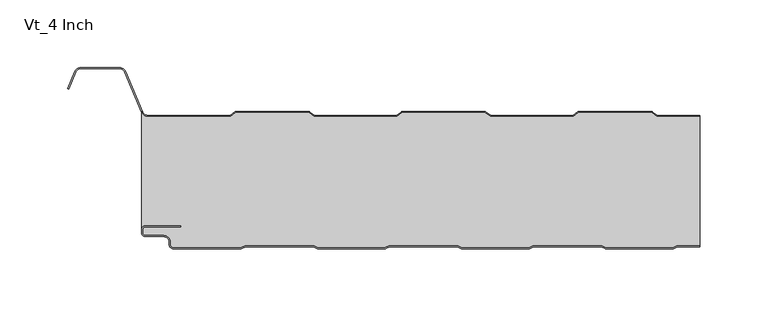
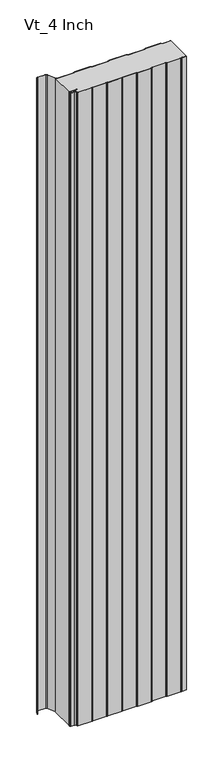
"""IFC4 building model written with IfcOpenShell, lengths in millimetres: plate geometry, AWIP_R18_CP_HR3_Vt_Roof Panel : Vt_4 Inch."""

import ifcopenshell
import ifcopenshell.guid

model = None  # the IFC model being written
_history = None  # IfcOwnerHistory: only IFC2X3 demands one
_inside = {}  # id of a spatial element -> (the spatial element, [elements in it])
_under = {}  # id of a project, library or spatial element -> (it, [spatial elements below it])
_declared = {}  # id of a project -> (the project, [libraries it declares])
_typed = {}  # id of a type object -> (the type object, [elements of that type])
_made_of = {}  # id of a material, layer set ... -> (it, [elements and type objects made of it])


def new_model(schema):
    """Start an empty IFC model of exactly this schema.

    Asked for "IFC4X3", IfcOpenShell would pick the latest addendum, in which some entities
    have other attributes; the version numbers below select the first issue.
    IFC2X3 requires an IfcOwnerHistory on every rooted entity: one is made here for all.
    """
    global model, _history
    if schema == "IFC4X3":
        model = ifcopenshell.file(schema_version=(4, 3, 0, 0))
    else:
        model = ifcopenshell.file(schema=schema)
    _inside.clear()
    _under.clear()
    _declared.clear()
    _typed.clear()
    _made_of.clear()
    _history = None
    if model.schema == "IFC2X3":
        org = make("IfcOrganization", Name="unknown")
        user = make(
            "IfcPersonAndOrganization",
            ThePerson=make("IfcPerson", FamilyName="unknown"),
            TheOrganization=org,
        )
        app = make(
            "IfcApplication",
            ApplicationDeveloper=org,
            Version="unknown",
            ApplicationFullName="unknown",
            ApplicationIdentifier="unknown",
        )
        _history = make(
            "IfcOwnerHistory",
            OwningUser=user,
            OwningApplication=app,
            ChangeAction="ADDED",
            CreationDate=0,
        )
    return model


def make(cls, **values):
    """One entity of the class cls with the attributes given. An attribute that is None is left unset."""
    return model.create_entity(
        cls, **{name: value for name, value in values.items() if value is not None}
    )


def rooted(cls, **values):
    """An entity with a GlobalId (a new one), such as an element, a storey or a relation."""
    return make(cls, GlobalId=ifcopenshell.guid.new(), OwnerHistory=_history, **values)


def si_unit(unit_type, name, prefix=None):
    """IfcSIUnit, for example si_unit("LENGTHUNIT", "METRE", prefix="MILLI")."""
    return make("IfcSIUnit", UnitType=unit_type, Prefix=prefix, Name=name)


def assignment(units):
    """IfcUnitAssignment: the units of a project."""
    return None if units is None else make("IfcUnitAssignment", Units=units)


def point(xyz):
    """IfcCartesianPoint."""
    return None if xyz is None else make("IfcCartesianPoint", Coordinates=xyz)


def direction(xyz):
    """IfcDirection."""
    return None if xyz is None else make("IfcDirection", DirectionRatios=xyz)


def frame(location, z_axis=None, x_axis=None):
    """IfcAxis2Placement3D, a coordinate frame: its origin and axes. An axis left out is left unset."""
    return make(
        "IfcAxis2Placement3D",
        Location=point(location),
        Axis=direction(z_axis),
        RefDirection=direction(x_axis),
    )


def frame_2d(location, x_axis=None):
    """IfcAxis2Placement2D, a coordinate frame in the plane: its origin and x axis."""
    return make(
        "IfcAxis2Placement2D", Location=point(location), RefDirection=direction(x_axis)
    )


def origin():
    """The frame at (0, 0, 0) with its axes left unset."""
    return frame((0.0, 0.0, 0.0))


def origin_with_axes():
    """The frame at (0, 0, 0) with the z axis (0, 0, 1) and the x axis (1, 0, 0) written out."""
    return frame((0.0, 0.0, 0.0), z_axis=(0.0, 0.0, 1.0), x_axis=(1.0, 0.0, 0.0))


def place(relative_to, where):
    """IfcLocalPlacement: puts the frame where relative to a parent placement (None: the world)."""
    return make(
        "IfcLocalPlacement", PlacementRelTo=relative_to, RelativePlacement=where
    )


def context(
    kind, dimensions, precision=None, world=None, true_north=None, identifier=None
):
    """IfcGeometricRepresentationContext, for example the 3D "Model" context."""
    return make(
        "IfcGeometricRepresentationContext",
        ContextIdentifier=identifier,
        ContextType=kind,
        CoordinateSpaceDimension=dimensions,
        Precision=precision,
        WorldCoordinateSystem=world,
        TrueNorth=true_north,
    )


def project(units=None, contexts=None):
    """IfcProject with its units and contexts."""
    return rooted(
        "IfcProject",
        Name="project",
        RepresentationContexts=contexts,
        UnitsInContext=assignment(units),
    )


def spatial(cls, under=None, at=None, **own):
    """A site, building, storey or space (cls), placed at a placement, below another one or the project."""
    s = rooted(cls, ObjectPlacement=at, **own)
    if under is not None:
        _under.setdefault(under.id(), (under, []))[1].append(s)
    return s


def polyline(points):
    """IfcPolyline through the points."""
    return make("IfcPolyline", Points=[point(p) for p in points])


def circle_curve(where, radius):
    """IfcCircle in the frame where."""
    return make("IfcCircle", Position=where, Radius=radius)


def trimmed(basis, trim1, trim2, sense, master):
    """IfcTrimmedCurve: the piece of a basis curve between two trims."""
    return make(
        "IfcTrimmedCurve",
        BasisCurve=basis,
        Trim1=trim1,
        Trim2=trim2,
        SenseAgreement=sense,
        MasterRepresentation=master,
    )


def segment(curve, same_sense, transition):
    """IfcCompositeCurveSegment."""
    return make(
        "IfcCompositeCurveSegment",
        Transition=transition,
        SameSense=same_sense,
        ParentCurve=curve,
    )


def composite_curve(segments, self_intersect=None):
    """IfcCompositeCurve: segments joined end to end."""
    return make("IfcCompositeCurve", Segments=segments, SelfIntersect=self_intersect)


def outline(outer, holes=None, kind="AREA"):
    """IfcArbitraryClosedProfileDef: a profile drawn as a closed curve; with holes, ...WithVoids."""
    if holes is None:
        return make("IfcArbitraryClosedProfileDef", ProfileType=kind, OuterCurve=outer)
    return make(
        "IfcArbitraryProfileDefWithVoids",
        ProfileType=kind,
        OuterCurve=outer,
        InnerCurves=holes,
    )


def extrude(swept, where, along, depth):
    """IfcExtrudedAreaSolid: the profile swept, set in the frame where, extruded along a direction by depth."""
    return make(
        "IfcExtrudedAreaSolid",
        SweptArea=swept,
        Position=where,
        ExtrudedDirection=direction(along),
        Depth=depth,
    )


def shape(context_of_items, identifier, shape_type, items):
    """IfcShapeRepresentation: the items that make up one representation, for example the "Body"."""
    return make(
        "IfcShapeRepresentation",
        ContextOfItems=context_of_items,
        RepresentationIdentifier=identifier,
        RepresentationType=shape_type,
        Items=items,
    )


def source(mapping_origin, context_of_items, identifier, shape_type, items):
    """IfcRepresentationMap: a shape defined once, which mapped items show again and again."""
    return make(
        "IfcRepresentationMap",
        MappingOrigin=mapping_origin,
        MappedRepresentation=shape(context_of_items, identifier, shape_type, items),
    )


def transform(
    local_origin,
    x_axis=None,
    y_axis=None,
    z_axis=None,
    scale=None,
    scale2=None,
    scale3=None,
    uniform=True,
):
    """IfcCartesianTransformationOperator3D, or its non-uniform kind. x_axis, y_axis, z_axis: its Axis1, 2, 3."""
    if uniform:
        return make(
            "IfcCartesianTransformationOperator3D",
            Axis1=direction(x_axis),
            Axis2=direction(y_axis),
            LocalOrigin=point(local_origin),
            Scale=scale,
            Axis3=direction(z_axis),
        )
    return make(
        "IfcCartesianTransformationOperator3DnonUniform",
        Axis1=direction(x_axis),
        Axis2=direction(y_axis),
        LocalOrigin=point(local_origin),
        Scale=scale,
        Axis3=direction(z_axis),
        Scale2=scale2,
        Scale3=scale3,
    )


def mapped(mapping_source, mapping_target):
    """IfcMappedItem: shows the shape of a source again, moved by a transform."""
    return make(
        "IfcMappedItem", MappingSource=mapping_source, MappingTarget=mapping_target
    )


def made_of(thing, what):
    """Note that an element or type object is made of a material, layer set ...; save() writes the relation."""
    if what is not None:
        _made_of.setdefault(what.id(), (what, []))[1].append(thing)
    return thing


def element(
    cls,
    number,
    at=None,
    inside=None,
    cuts=None,
    type_object=None,
    material=None,
    context=None,
    identifier="Body",
    shape_type=None,
    held_by="IfcProductDefinitionShape",
    body=None,
    shapes=None,
    **own,
):
    """One element of the class cls, such as IfcWall. Its Tag is "e" and its number.

    at: its placement. inside: the storey or other place that contains it. cuts: it is an
    opening in that element (IfcRelVoidsElement). A single representation is given by context,
    identifier, shape_type and body (its items); several are given by shapes. held_by: the class
    of the entity that holds the representations. save() writes the other relations.
    """
    e = rooted(cls, Tag="e%d" % number, ObjectPlacement=at, **own)
    if body is not None:
        shapes = [shape(context, identifier, shape_type, body)]
    if shapes is not None:
        e.Representation = make(held_by, Representations=shapes)
    if inside is not None:
        _inside.setdefault(inside.id(), (inside, []))[1].append(e)
    if cuts is not None:
        rooted(
            "IfcRelVoidsElement", RelatingBuildingElement=cuts, RelatedOpeningElement=e
        )
    if type_object is not None:
        _typed.setdefault(type_object.id(), (type_object, []))[1].append(e)
    return made_of(e, material)


def aggregate(whole, parts):
    """IfcRelAggregates: a whole, such as a stair, and the parts it consists of."""
    return rooted("IfcRelAggregates", RelatingObject=whole, RelatedObjects=parts)


def save(model, path):
    """Write the relations noted so far, then the file.

    IfcRelAggregates (storeys below a building ...), IfcRelContainedInSpatialStructure (elements
    in a storey), IfcRelDefinesByType, IfcRelAssociatesMaterial and IfcRelDeclares: one each for
    every whole, place, type object, material and project.
    """
    for whole, parts in _under.values():
        aggregate(whole, parts)
    for where, things in _inside.values():
        rooted(
            "IfcRelContainedInSpatialStructure",
            RelatedElements=things,
            RelatingStructure=where,
        )
    for kind, things in _typed.values():
        rooted("IfcRelDefinesByType", RelatedObjects=things, RelatingType=kind)
    for what, things in _made_of.values():
        rooted("IfcRelAssociatesMaterial", RelatedObjects=things, RelatingMaterial=what)
    for by, libraries in _declared.values():
        rooted("IfcRelDeclares", RelatingContext=by, RelatedDefinitions=libraries)
    model.write(path)


def plane_surface(at):
    """IfcPlane: the flat surface through the origin of the frame at, square to its z axis."""
    return make("IfcPlane", Position=at)


def cylinder_surface(at, radius):
    """IfcCylindricalSurface: all points at the distance radius from the z axis of the frame at."""
    return make("IfcCylindricalSurface", Position=at, Radius=radius)


def revolved_surface(curve, axis_point, axis_direction):
    """IfcSurfaceOfRevolution: the curve turned about the line through axis_point along axis_direction."""
    return make(
        "IfcSurfaceOfRevolution",
        SweptCurve=make("IfcArbitraryOpenProfileDef", ProfileType="CURVE", Curve=curve),
        AxisPosition=make("IfcAxis1Placement", Location=point(axis_point), Axis=direction(axis_direction)),
    )


def advanced_brep(points, edges, surfaces, faces):
    """IfcAdvancedBrep: a solid bounded by faces that lie on surfaces and meet in shared edges.

    An edge is (start, end): straight between two places in points (the first is 0);
    or (start, end, curve); or (start, end, curve, False) where it runs against its curve.
    A face is (place in surfaces, loops), or (place, loops, False) where it looks against
    its surface's normal. A loop lists edges by number (the first is 1), with a minus sign
    where the edge is run from its end to its start. The first loop is the outer one.
    """
    corners = [point(p) for p in points]
    vertices = [make("IfcVertexPoint", VertexGeometry=c) for c in corners]
    made = []
    for start, end, *more in edges:
        made.append(
            make(
                "IfcEdgeCurve",
                EdgeStart=vertices[start],
                EdgeEnd=vertices[end],
                EdgeGeometry=more[0] if more else make("IfcPolyline", Points=[corners[start], corners[end]]),
                SameSense=more[1] if len(more) > 1 else True,
            )
        )
    hull = []
    for where, loops, *sense in faces:
        bounds = []
        for j, loop in enumerate(loops):
            ring = [make("IfcOrientedEdge", EdgeElement=made[abs(k) - 1], Orientation=k > 0) for k in loop]
            bounds.append(
                make(
                    "IfcFaceOuterBound" if j == 0 else "IfcFaceBound",
                    Bound=make("IfcEdgeLoop", EdgeList=ring),
                    Orientation=True,
                )
            )
        hull.append(make("IfcAdvancedFace", Bounds=bounds, FaceSurface=surfaces[where], SameSense=sense[0] if sense else True))
    return make("IfcAdvancedBrep", Outer=make("IfcClosedShell", CfsFaces=hull))


def vt_4_inch_4cb30dbc(model_context):
    return source(origin(), model_context, "Body", "SolidModel", [
        extrude(outline(composite_curve([segment(trimmed(circle_curve(frame_2d((206.3079976, -1.0)), 2.5), [point((206.3079976, 1.5))], [point((205.316517, 1.2949872))], True, "CARTESIAN"), True, "CONTINUOUS"), segment(polyline([(205.316517, 1.2949872), (202.9264178, 0.2624164)]), True, "CONTINUOUS"), segment(trimmed(circle_curve(frame_2d((201.6573227, 3.2)), 3.2), [point((202.9264178, 0.2624164))], [point((201.6573227, 0.0))], False, "CARTESIAN"), True, "CONTINUOUS"), segment(polyline([(201.6573227, 0.0), (152.7426776, 0.0)]), True, "CONTINUOUS"), segment(trimmed(circle_curve(frame_2d((152.7426776, 3.2)), 3.2), [point((152.7426776, 0.0))], [point((151.4735825, 0.2624164))], False, "CARTESIAN"), True, "CONTINUOUS"), segment(polyline([(151.4735825, 0.2624164), (149.0834833, 1.2949872)]), True, "CONTINUOUS"), segment(trimmed(circle_curve(frame_2d((148.0920027, -1.0)), 2.5), [point((149.0834833, 1.2949872))], [point((148.0920027, 1.5))], True, "CARTESIAN"), True, "CONTINUOUS"), segment(polyline([(148.0920027, 1.5), (99.7079976, 1.5)]), True, "CONTINUOUS"), segment(trimmed(circle_curve(frame_2d((99.7079976, -1.0)), 2.5), [point((99.7079976, 1.5))], [point((98.716517, 1.2949872))], True, "CARTESIAN"), True, "CONTINUOUS"), segment(polyline([(98.716517, 1.2949872), (96.3264178, 0.2624164)]), True, "CONTINUOUS"), segment(trimmed(circle_curve(frame_2d((95.0573227, 3.2)), 3.2), [point((96.3264178, 0.2624164))], [point((95.0573227, 0.0))], False, "CARTESIAN"), True, "CONTINUOUS"), segment(polyline([(95.0573227, 0.0), (46.1426776, 0.0)]), True, "CONTINUOUS"), segment(trimmed(circle_curve(frame_2d((46.1426776, 3.2)), 3.2), [point((46.1426776, 0.0))], [point((44.8735825, 0.2624164))], False, "CARTESIAN"), True, "CONTINUOUS"), segment(polyline([(44.8735825, 0.2624164), (42.4834833, 1.2949872)]), True, "CONTINUOUS"), segment(trimmed(circle_curve(frame_2d((41.4920027, -1.0)), 2.5), [point((42.4834833, 1.2949872))], [point((41.4920027, 1.5))], True, "CARTESIAN"), True, "CONTINUOUS"), segment(polyline([(41.4920027, 1.5), (-6.8920024, 1.5)]), True, "CONTINUOUS"), segment(trimmed(circle_curve(frame_2d((-6.8920024, -1.0)), 2.5), [point((-6.8920024, 1.5))], [point((-7.883483, 1.2949872))], True, "CARTESIAN"), True, "CONTINUOUS"), segment(polyline([(-7.883483, 1.2949872), (-10.2735822, 0.2624164)]), True, "CONTINUOUS"), segment(trimmed(circle_curve(frame_2d((-11.5426773, 3.2)), 3.2), [point((-10.2735822, 0.2624164))], [point((-11.5426773, 0.0))], False, "CARTESIAN"), True, "CONTINUOUS"), segment(polyline([(-11.5426773, 0.0), (-60.4573224, 0.0)]), True, "CONTINUOUS"), segment(trimmed(circle_curve(frame_2d((-60.4573224, 3.2)), 3.2), [point((-60.4573224, 0.0))], [point((-61.7264175, 0.2624164))], False, "CARTESIAN"), True, "CONTINUOUS"), segment(polyline([(-61.7264175, 0.2624164), (-64.1165167, 1.2949872)]), True, "CONTINUOUS"), segment(trimmed(circle_curve(frame_2d((-65.1079973, -1.0)), 2.5), [point((-64.1165167, 1.2949872))], [point((-65.1079973, 1.5))], True, "CARTESIAN"), True, "CONTINUOUS"), segment(polyline([(-65.1079973, 1.5), (-113.4920024, 1.5)]), True, "CONTINUOUS"), segment(trimmed(circle_curve(frame_2d((-113.4920024, -1.0)), 2.5), [point((-113.4920024, 1.5))], [point((-114.483483, 1.2949872))], True, "CARTESIAN"), True, "CONTINUOUS"), segment(polyline([(-114.483483, 1.2949872), (-116.8735822, 0.2624164)]), True, "CONTINUOUS"), segment(trimmed(circle_curve(frame_2d((-118.1426773, 3.2)), 3.2), [point((-116.8735822, 0.2624164))], [point((-118.1426773, 0.0))], False, "CARTESIAN"), True, "CONTINUOUS"), segment(polyline([(-118.1426773, 0.0), (-167.8999998, 0.0)]), True, "CONTINUOUS"), segment(trimmed(circle_curve(frame_2d((-167.8999998, 3.0)), 3.0), [point((-167.8999998, 0.0))], [point((-170.8999998, 3.0))], False, "CARTESIAN"), True, "CONTINUOUS"), segment(polyline([(-170.8999998, 3.0), (-170.8999998, 5.0)]), True, "CONTINUOUS"), segment(trimmed(circle_curve(frame_2d((-174.8999998, 5.0)), 4.0), [point((-170.8999998, 5.0))], [point((-174.8999998, 9.0))], True, "CARTESIAN"), True, "CONTINUOUS"), segment(polyline([(-174.8999998, 9.0), (-188.41581, 9.0)]), True, "CONTINUOUS"), segment(trimmed(circle_curve(frame_2d((-188.41581, 12.0)), 3.0), [point((-188.41581, 9.0))], [point((-191.41581, 12.0))], False, "CARTESIAN"), True, "CONTINUOUS"), segment(polyline([(-191.41581, 12.0), (-191.41581, 14.0)]), True, "CONTINUOUS"), segment(trimmed(circle_curve(frame_2d((-188.41581, 14.0)), 3.0), [point((-191.41581, 14.0))], [point((-188.41581, 17.0))], False, "CARTESIAN"), True, "CONTINUOUS"), segment(polyline([(-188.41581, 17.0), (-162.474768, 17.0), (-162.474768, 16.2), (-188.41581, 16.2)]), True, "CONTINUOUS"), segment(trimmed(circle_curve(frame_2d((-188.41581, 14.0)), 2.2), [point((-188.41581, 16.2))], [point((-190.61581, 14.0))], True, "CARTESIAN"), True, "CONTINUOUS"), segment(polyline([(-190.61581, 14.0), (-190.61581, 12.0)]), True, "CONTINUOUS"), segment(trimmed(circle_curve(frame_2d((-188.41581, 12.0)), 2.2), [point((-190.61581, 12.0))], [point((-188.41581, 9.8))], True, "CARTESIAN"), True, "CONTINUOUS"), segment(polyline([(-188.41581, 9.8), (-174.8999998, 9.8)]), True, "CONTINUOUS"), segment(trimmed(circle_curve(frame_2d((-174.8999998, 5.0)), 4.8), [point((-174.8999998, 9.8))], [point((-170.0999998, 5.0))], False, "CARTESIAN"), True, "CONTINUOUS"), segment(polyline([(-170.0999998, 5.0), (-170.0999998, 3.0)]), True, "CONTINUOUS"), segment(trimmed(circle_curve(frame_2d((-167.8999998, 3.0)), 2.2), [point((-170.0999998, 3.0))], [point((-167.8999998, 0.8))], True, "CARTESIAN"), True, "CONTINUOUS"), segment(polyline([(-167.8999998, 0.8), (-118.1426773, 0.8)]), True, "CONTINUOUS"), segment(trimmed(circle_curve(frame_2d((-118.1426773, 3.2)), 2.4), [point((-118.1426773, 0.8))], [point((-117.190856, 0.9968123))], True, "CARTESIAN"), True, "CONTINUOUS"), segment(polyline([(-117.190856, 0.9968123), (-114.8007568, 2.0293831)]), True, "CONTINUOUS"), segment(trimmed(circle_curve(frame_2d((-113.4920024, -1.0)), 3.3), [point((-114.8007568, 2.0293831))], [point((-113.4920024, 2.3))], False, "CARTESIAN"), True, "CONTINUOUS"), segment(polyline([(-113.4920024, 2.3), (-65.1079973, 2.3)]), True, "CONTINUOUS"), segment(trimmed(circle_curve(frame_2d((-65.1079973, -1.0)), 3.3), [point((-65.1079973, 2.3))], [point((-63.7992429, 2.0293831))], False, "CARTESIAN"), True, "CONTINUOUS"), segment(polyline([(-63.7992429, 2.0293831), (-61.4091437, 0.9968123)]), True, "CONTINUOUS"), segment(trimmed(circle_curve(frame_2d((-60.4573224, 3.2)), 2.4), [point((-61.4091437, 0.9968123))], [point((-60.4573224, 0.8))], True, "CARTESIAN"), True, "CONTINUOUS"), segment(polyline([(-60.4573224, 0.8), (-11.5426773, 0.8)]), True, "CONTINUOUS"), segment(trimmed(circle_curve(frame_2d((-11.5426773, 3.2)), 2.4), [point((-11.5426773, 0.8))], [point((-10.590856, 0.9968123))], True, "CARTESIAN"), True, "CONTINUOUS"), segment(polyline([(-10.590856, 0.9968123), (-8.2007568, 2.0293831)]), True, "CONTINUOUS"), segment(trimmed(circle_curve(frame_2d((-6.8920024, -1.0)), 3.3), [point((-8.2007568, 2.0293831))], [point((-6.8920024, 2.3))], False, "CARTESIAN"), True, "CONTINUOUS"), segment(polyline([(-6.8920024, 2.3), (41.4920027, 2.3)]), True, "CONTINUOUS"), segment(trimmed(circle_curve(frame_2d((41.4920027, -1.0)), 3.3), [point((41.4920027, 2.3))], [point((42.8007571, 2.0293831))], False, "CARTESIAN"), True, "CONTINUOUS"), segment(polyline([(42.8007571, 2.0293831), (45.1908563, 0.9968123)]), True, "CONTINUOUS"), segment(trimmed(circle_curve(frame_2d((46.1426776, 3.2)), 2.4), [point((45.1908563, 0.9968123))], [point((46.1426776, 0.8))], True, "CARTESIAN"), True, "CONTINUOUS"), segment(polyline([(46.1426776, 0.8), (95.0573227, 0.8)]), True, "CONTINUOUS"), segment(trimmed(circle_curve(frame_2d((95.0573227, 3.2)), 2.4), [point((95.0573227, 0.8))], [point((96.009144, 0.9968123))], True, "CARTESIAN"), True, "CONTINUOUS"), segment(polyline([(96.009144, 0.9968123), (98.3992432, 2.0293831)]), True, "CONTINUOUS"), segment(trimmed(circle_curve(frame_2d((99.7079976, -1.0)), 3.3), [point((98.3992432, 2.0293831))], [point((99.7079976, 2.3))], False, "CARTESIAN"), True, "CONTINUOUS"), segment(polyline([(99.7079976, 2.3), (148.0920027, 2.3)]), True, "CONTINUOUS"), segment(trimmed(circle_curve(frame_2d((148.0920027, -1.0)), 3.3), [point((148.0920027, 2.3))], [point((149.4007571, 2.0293831))], False, "CARTESIAN"), True, "CONTINUOUS"), segment(polyline([(149.4007571, 2.0293831), (151.7908563, 0.9968123)]), True, "CONTINUOUS"), segment(trimmed(circle_curve(frame_2d((152.7426776, 3.2)), 2.4), [point((151.7908563, 0.9968123))], [point((152.7426776, 0.8))], True, "CARTESIAN"), True, "CONTINUOUS"), segment(polyline([(152.7426776, 0.8), (201.6573227, 0.8)]), True, "CONTINUOUS"), segment(trimmed(circle_curve(frame_2d((201.6573227, 3.2)), 2.4), [point((201.6573227, 0.8))], [point((202.609144, 0.9968123))], True, "CARTESIAN"), True, "CONTINUOUS"), segment(polyline([(202.609144, 0.9968123), (204.9992432, 2.0293831)]), True, "CONTINUOUS"), segment(trimmed(circle_curve(frame_2d((206.3079976, -1.0)), 3.3), [point((204.9992432, 2.0293831))], [point((206.3079976, 2.3))], False, "CARTESIAN"), True, "CONTINUOUS"), segment(polyline([(206.3079976, 2.3), (221.9999998, 2.3), (221.9999998, 1.5), (206.3079976, 1.5)]), True, "CONTINUOUS")], self_intersect=False)), origin_with_axes(), (0.0, 0.0, 1.0), 2400.0),
        advanced_brep(
        [(190.5265971, 98.0158806, 0.0), (190.5265971, 98.0158806, 2400.0), (221.9999998, 98.0158806, 2400.0), (221.9999998, 98.0158806, 0.0), (189.7652072, 98.2621797, 2400.0), (189.7652072, 98.2621797, 0.0), (186.2530727, 100.8000001, 2400.0), (186.2530727, 100.8000001, 0.0), (132.0501916, 100.8000001, 2400.0), (132.0501916, 100.8000001, 0.0), (128.5380576, 98.2621798, 2400.0), (128.5380576, 98.2621798, 0.0), (127.7766677, 98.0158806, 2400.0), (127.7766677, 98.0158806, 0.0), (67.2805372, 98.0158806, 2400.0), (67.2805372, 98.0158806, 0.0), (66.5191475, 98.2621797, 2400.0), (66.5191475, 98.2621797, 0.0), (63.007013, 100.8000001, 2400.0), (63.007013, 100.8000001, 0.0), (1.5462671, 100.8000001, 2400.0), (1.5462671, 100.8000001, 0.0), (-1.9658675, 98.2621797, 2400.0), (-1.9658675, 98.2621797, 0.0), (-2.7272574, 98.0158805, 2400.0), (-2.7272574, 98.0158805, 0.0), (-63.2233836, 98.0158805, 2400.0), (-63.2233836, 98.0158805, 0.0), (-63.9847734, 98.2621797, 2400.0), (-63.9847734, 98.2621797, 0.0), (-67.4969079, 100.8, 2400.0), (-67.4969079, 100.8, 0.0), (-121.6997882, 100.8, 2400.0), (-121.6997882, 100.8, 0.0), (-125.2119228, 98.2621797, 2400.0), (-125.2119228, 98.2621797, 0.0), (-125.9733126, 98.0158805, 2400.0), (-125.9733126, 98.0158805, 0.0), (-186.7572295, 98.0158805, 2400.0), (-186.7572295, 98.0158805, 0.0), (-191.4327566, 101.7298575, 2400.0), (-191.4327566, 14.0, 2400.0), (-188.41581, 17.0, 2400.0), (-162.474768, 17.0, 2400.0), (-162.474768, 16.2, 2400.0), (-188.41581, 16.2, 2400.0), (-190.61581, 14.0, 2400.0), (-190.61581, 12.0, 2400.0), (-188.41581, 9.8, 2400.0), (-174.8999998, 9.8, 2400.0), (-170.0999998, 5.0, 2400.0), (-170.0999998, 3.0, 2400.0), (-167.8999998, 0.8, 2400.0), (-118.1426773, 0.8, 2400.0), (-117.190856, 0.9968123, 2400.0), (-114.8007568, 2.0293831, 2400.0), (-113.4920024, 2.3, 2400.0), (-65.1079973, 2.3, 2400.0), (-63.7992429, 2.0293831, 2400.0), (-61.4091437, 0.9968123, 2400.0), (-60.4573224, 0.8, 2400.0), (-11.5426773, 0.8, 2400.0), (-10.590856, 0.9968123, 2400.0), (-8.2007568, 2.0293831, 2400.0), (-6.8920024, 2.3, 2400.0), (41.4920027, 2.3, 2400.0), (42.8007571, 2.0293831, 2400.0), (45.1908563, 0.9968123, 2400.0), (46.1426776, 0.8, 2400.0), (95.0573227, 0.8, 2400.0), (96.009144, 0.9968123, 2400.0), (98.3992432, 2.0293831, 2400.0), (99.7079976, 2.3, 2400.0), (148.0920027, 2.3, 2400.0), (149.4007571, 2.0293831, 2400.0), (151.7908563, 0.9968123, 2400.0), (152.7426776, 0.8, 2400.0), (201.6573227, 0.8, 2400.0), (202.609144, 0.9968123, 2400.0), (204.9992432, 2.0293831, 2400.0), (206.3079976, 2.3, 2400.0), (221.9999998, 2.3, 2400.0), (221.9999998, 2.3, 0.0), (206.3079976, 2.3, 0.0), (204.9992432, 2.0293831, 0.0), (202.609144, 0.9968123, 0.0), (201.6573227, 0.8, 0.0), (152.7426776, 0.8, 0.0), (151.7908563, 0.9968123, 0.0), (149.4007571, 2.0293831, 0.0), (148.0920027, 2.3, 0.0), (99.7079976, 2.3, 0.0), (98.3992432, 2.0293831, 0.0), (96.009144, 0.9968123, 0.0), (95.0573227, 0.8, 0.0), (46.1426776, 0.8, 0.0), (45.1908563, 0.9968123, 0.0), (42.8007571, 2.0293831, 0.0), (41.4920027, 2.3, 0.0), (-6.8920024, 2.3, 0.0), (-8.2007568, 2.0293831, 0.0), (-10.590856, 0.9968123, 0.0), (-11.5426773, 0.8, 0.0), (-60.4573224, 0.8, 0.0), (-61.4091437, 0.9968123, 0.0), (-63.7992429, 2.0293831, 0.0), (-65.1079973, 2.3, 0.0), (-113.4920024, 2.3, 0.0), (-114.8007568, 2.0293831, 0.0), (-117.190856, 0.9968123, 0.0), (-118.1426773, 0.8, 0.0), (-167.8999998, 0.8, 0.0), (-170.0999998, 3.0, 0.0), (-170.0999998, 5.0, 0.0), (-174.8999998, 9.8, 0.0), (-188.41581, 9.8, 0.0), (-190.61581, 12.0, 0.0), (-190.61581, 14.0, 0.0), (-188.41581, 16.2, 0.0), (-162.474768, 16.2, 0.0), (-162.474768, 17.0, 0.0), (-188.41581, 17.0, 0.0), (-191.41581, 14.0, 0.0), (-191.4327566, 101.7298575, 0.0)],
        [
            (0, 1),
            (1, 2),
            (2, 3),
            (3, 0),
            (4, 1, circle_curve(frame((190.5265971, 99.3158806, 2400.0), z_axis=(0.0, 0.0, 1.0), x_axis=(0.0, 1.0, 0.0)), 1.3)),
            (0, 5, circle_curve(frame((190.5265971, 99.3158806, 0.0), z_axis=(0.0, 0.0, -1.0), x_axis=(0.0, 1.0, 0.0)), 1.3)),
            (5, 4),
            (6, 4),
            (5, 7),
            (7, 6),
            (8, 6),
            (7, 9),
            (9, 8),
            (10, 8),
            (9, 11),
            (11, 10),
            (12, 10, circle_curve(frame((127.7766677, 99.3158806, 2400.0), z_axis=(0.0, 0.0, 1.0), x_axis=(0.0, 1.0, 0.0)), 1.3)),
            (11, 13, circle_curve(frame((127.7766677, 99.3158806, 0.0), z_axis=(0.0, 0.0, -1.0), x_axis=(0.0, 1.0, 0.0)), 1.3)),
            (13, 12),
            (14, 12),
            (13, 15),
            (15, 14),
            (16, 14, circle_curve(frame((67.2805372, 99.3158804, 2400.0), z_axis=(0.0, 0.0, 1.0), x_axis=(0.0, 1.0, 0.0)), 1.2999998)),
            (15, 17, circle_curve(frame((67.2805372, 99.3158804, 0.0), z_axis=(0.0, 0.0, -1.0), x_axis=(0.0, 1.0, 0.0)), 1.2999998)),
            (17, 16),
            (18, 16),
            (17, 19),
            (19, 18),
            (20, 18),
            (19, 21),
            (21, 20),
            (22, 20),
            (21, 23),
            (23, 22),
            (24, 22, circle_curve(frame((-2.7272574, 99.3158805, 2400.0), z_axis=(0.0, 0.0, 1.0), x_axis=(0.0, 1.0, 0.0)), 1.3)),
            (23, 25, circle_curve(frame((-2.7272574, 99.3158805, 0.0), z_axis=(0.0, 0.0, -1.0), x_axis=(0.0, 1.0, 0.0)), 1.3)),
            (25, 24),
            (26, 24),
            (25, 27),
            (27, 26),
            (28, 26, circle_curve(frame((-63.2233836, 99.3158805, 2400.0), z_axis=(0.0, 0.0, 1.0), x_axis=(0.0, 1.0, 0.0)), 1.3)),
            (27, 29, circle_curve(frame((-63.2233836, 99.3158805, 0.0), z_axis=(0.0, 0.0, -1.0), x_axis=(0.0, 1.0, 0.0)), 1.3)),
            (29, 28),
            (30, 28),
            (29, 31),
            (31, 30),
            (32, 30),
            (31, 33),
            (33, 32),
            (34, 32),
            (33, 35),
            (35, 34),
            (36, 34, circle_curve(frame((-125.9733126, 99.3158805, 2400.0), z_axis=(0.0, 0.0, 1.0), x_axis=(0.0, 1.0, 0.0)), 1.3)),
            (35, 37, circle_curve(frame((-125.9733126, 99.3158805, 0.0), z_axis=(0.0, 0.0, -1.0), x_axis=(0.0, 1.0, 0.0)), 1.3)),
            (37, 36),
            (38, 36),
            (37, 39),
            (39, 38),
            (38, 40, circle_curve(frame((-186.7572295, 102.8158804, 2400.0), z_axis=(0.0, 0.0, -1.0), x_axis=(0.0, 1.0, 0.0)), 4.7999999)),
            (40, 41),
            (41, 42, circle_curve(frame((-188.41581, 14.0, 2400.0), z_axis=(0.0, 0.0, -1.0), x_axis=(0.0, 1.0, 0.0)), 3.0)),
            (42, 43),
            (43, 44),
            (44, 45),
            (45, 46, circle_curve(frame((-188.41581, 14.0, 2400.0), z_axis=(0.0, 0.0, 1.0), x_axis=(0.0, 1.0, 0.0)), 2.2)),
            (46, 47),
            (47, 48, circle_curve(frame((-188.41581, 12.0, 2400.0), z_axis=(0.0, 0.0, 1.0), x_axis=(0.0, 1.0, 0.0)), 2.2)),
            (48, 49),
            (49, 50, circle_curve(frame((-174.8999998, 5.0, 2400.0), z_axis=(0.0, 0.0, -1.0), x_axis=(0.0, 1.0, 0.0)), 4.8)),
            (50, 51),
            (51, 52, circle_curve(frame((-167.8999998, 3.0, 2400.0), z_axis=(0.0, 0.0, 1.0), x_axis=(0.0, 1.0, 0.0)), 2.2)),
            (52, 53),
            (53, 54, circle_curve(frame((-118.1426773, 3.2, 2400.0), z_axis=(0.0, 0.0, 1.0), x_axis=(0.0, 1.0, 0.0)), 2.4)),
            (54, 55),
            (55, 56, circle_curve(frame((-113.4920024, -1.0, 2400.0), z_axis=(0.0, 0.0, -1.0), x_axis=(0.0, 1.0, 0.0)), 3.3)),
            (56, 57),
            (57, 58, circle_curve(frame((-65.1079973, -1.0, 2400.0), z_axis=(0.0, 0.0, -1.0), x_axis=(0.0, 1.0, 0.0)), 3.3)),
            (58, 59),
            (59, 60, circle_curve(frame((-60.4573224, 3.2, 2400.0), z_axis=(0.0, 0.0, 1.0), x_axis=(0.0, 1.0, 0.0)), 2.4)),
            (60, 61),
            (61, 62, circle_curve(frame((-11.5426773, 3.2, 2400.0), z_axis=(0.0, 0.0, 1.0), x_axis=(0.0, 1.0, 0.0)), 2.4)),
            (62, 63),
            (63, 64, circle_curve(frame((-6.8920024, -1.0, 2400.0), z_axis=(0.0, 0.0, -1.0), x_axis=(0.0, 1.0, 0.0)), 3.3)),
            (64, 65),
            (65, 66, circle_curve(frame((41.4920027, -1.0, 2400.0), z_axis=(0.0, 0.0, -1.0), x_axis=(0.0, 1.0, 0.0)), 3.3)),
            (66, 67),
            (67, 68, circle_curve(frame((46.1426776, 3.2, 2400.0), z_axis=(0.0, 0.0, 1.0), x_axis=(0.0, 1.0, 0.0)), 2.4)),
            (68, 69),
            (69, 70, circle_curve(frame((95.0573227, 3.2, 2400.0), z_axis=(0.0, 0.0, 1.0), x_axis=(0.0, 1.0, 0.0)), 2.4)),
            (70, 71),
            (71, 72, circle_curve(frame((99.7079976, -1.0, 2400.0), z_axis=(0.0, 0.0, -1.0), x_axis=(0.0, 1.0, 0.0)), 3.3)),
            (72, 73),
            (73, 74, circle_curve(frame((148.0920027, -1.0, 2400.0), z_axis=(0.0, 0.0, -1.0), x_axis=(0.0, 1.0, 0.0)), 3.3)),
            (74, 75),
            (75, 76, circle_curve(frame((152.7426776, 3.2, 2400.0), z_axis=(0.0, 0.0, 1.0), x_axis=(0.0, 1.0, 0.0)), 2.4)),
            (76, 77),
            (77, 78, circle_curve(frame((201.6573227, 3.2, 2400.0), z_axis=(0.0, 0.0, 1.0), x_axis=(0.0, 1.0, 0.0)), 2.4)),
            (78, 79),
            (79, 80, circle_curve(frame((206.3079976, -1.0, 2400.0), z_axis=(0.0, 0.0, -1.0), x_axis=(0.0, 1.0, 0.0)), 3.3)),
            (80, 81),
            (81, 2),
            (3, 82),
            (82, 83),
            (83, 84, circle_curve(frame((206.3079976, -1.0, 0.0), z_axis=(0.0, 0.0, 1.0), x_axis=(0.0, 1.0, 0.0)), 3.3)),
            (84, 85),
            (85, 86, circle_curve(frame((201.6573227, 3.2, 0.0), z_axis=(0.0, 0.0, -1.0), x_axis=(0.0, 1.0, 0.0)), 2.4)),
            (86, 87),
            (87, 88, circle_curve(frame((152.7426776, 3.2, 0.0), z_axis=(0.0, 0.0, -1.0), x_axis=(0.0, 1.0, 0.0)), 2.4)),
            (88, 89),
            (89, 90, circle_curve(frame((148.0920027, -1.0, 0.0), z_axis=(0.0, 0.0, 1.0), x_axis=(0.0, 1.0, 0.0)), 3.3)),
            (90, 91),
            (91, 92, circle_curve(frame((99.7079976, -1.0, 0.0), z_axis=(0.0, 0.0, 1.0), x_axis=(0.0, 1.0, 0.0)), 3.3)),
            (92, 93),
            (93, 94, circle_curve(frame((95.0573227, 3.2, 0.0), z_axis=(0.0, 0.0, -1.0), x_axis=(0.0, 1.0, 0.0)), 2.4)),
            (94, 95),
            (95, 96, circle_curve(frame((46.1426776, 3.2, 0.0), z_axis=(0.0, 0.0, -1.0), x_axis=(0.0, 1.0, 0.0)), 2.4)),
            (96, 97),
            (97, 98, circle_curve(frame((41.4920027, -1.0, 0.0), z_axis=(0.0, 0.0, 1.0), x_axis=(0.0, 1.0, 0.0)), 3.3)),
            (98, 99),
            (99, 100, circle_curve(frame((-6.8920024, -1.0, 0.0), z_axis=(0.0, 0.0, 1.0), x_axis=(0.0, 1.0, 0.0)), 3.3)),
            (100, 101),
            (101, 102, circle_curve(frame((-11.5426773, 3.2, 0.0), z_axis=(0.0, 0.0, -1.0), x_axis=(0.0, 1.0, 0.0)), 2.4)),
            (102, 103),
            (103, 104, circle_curve(frame((-60.4573224, 3.2, 0.0), z_axis=(0.0, 0.0, -1.0), x_axis=(0.0, 1.0, 0.0)), 2.4)),
            (104, 105),
            (105, 106, circle_curve(frame((-65.1079973, -1.0, 0.0), z_axis=(0.0, 0.0, 1.0), x_axis=(0.0, 1.0, 0.0)), 3.3)),
            (106, 107),
            (107, 108, circle_curve(frame((-113.4920024, -1.0, 0.0), z_axis=(0.0, 0.0, 1.0), x_axis=(0.0, 1.0, 0.0)), 3.3)),
            (108, 109),
            (109, 110, circle_curve(frame((-118.1426773, 3.2, 0.0), z_axis=(0.0, 0.0, -1.0), x_axis=(0.0, 1.0, 0.0)), 2.4)),
            (110, 111),
            (111, 112, circle_curve(frame((-167.8999998, 3.0, 0.0), z_axis=(0.0, 0.0, -1.0), x_axis=(0.0, 1.0, 0.0)), 2.2)),
            (112, 113),
            (113, 114, circle_curve(frame((-174.8999998, 5.0, 0.0), z_axis=(0.0, 0.0, 1.0), x_axis=(0.0, 1.0, 0.0)), 4.8)),
            (114, 115),
            (115, 116, circle_curve(frame((-188.41581, 12.0, 0.0), z_axis=(0.0, 0.0, -1.0), x_axis=(0.0, 1.0, 0.0)), 2.2)),
            (116, 117),
            (117, 118, circle_curve(frame((-188.41581, 14.0, 0.0), z_axis=(0.0, 0.0, -1.0), x_axis=(0.0, 1.0, 0.0)), 2.2)),
            (118, 119),
            (119, 120),
            (120, 121),
            (121, 122, circle_curve(frame((-188.41581, 14.0, 0.0), z_axis=(0.0, 0.0, 1.0), x_axis=(0.0, 1.0, 0.0)), 3.0)),
            (122, 123),
            (123, 39, circle_curve(frame((-186.7572295, 102.8158804, 0.0), z_axis=(0.0, 0.0, 1.0), x_axis=(0.0, 1.0, 0.0)), 4.7999999)),
            (81, 82),
            (123, 40),
            (122, 41),
            (121, 42),
            (120, 43),
            (119, 44),
            (118, 45),
            (117, 46),
            (116, 47),
            (115, 48),
            (114, 49),
            (113, 50),
            (112, 51),
            (111, 52),
            (110, 53),
            (109, 54),
            (108, 55),
            (107, 56),
            (106, 57),
            (105, 58),
            (104, 59),
            (103, 60),
            (102, 61),
            (101, 62),
            (100, 63),
            (99, 64),
            (98, 65),
            (97, 66),
            (96, 67),
            (95, 68),
            (94, 69),
            (93, 70),
            (92, 71),
            (91, 72),
            (90, 73),
            (89, 74),
            (88, 75),
            (87, 76),
            (86, 77),
            (85, 78),
            (84, 79),
            (83, 80),
        ],
        [
            plane_surface(frame((251.0227427, 98.0158806, 2400.0), z_axis=(0.0, 1.0, 0.0), x_axis=(0.0, 0.0, -1.0))),
            revolved_surface(polyline([(190.5265971, 100.6158806, 0.0), (190.5265971, 100.6158806, 2400.0)]), (190.5265971, 99.3158806, 2400.0), (0.0, 0.0, -1.0)),
            plane_surface(frame((189.7652072, 98.2621797, 2400.0), z_axis=(0.5856844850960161, 0.8105391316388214, 0.0), x_axis=(0.0, 0.0, -1.0))),
            plane_surface(frame((186.2530727, 100.8000001, 2400.0), z_axis=(0.0, 1.0, 0.0), x_axis=(0.0, 0.0, -1.0))),
            plane_surface(frame((132.0501916, 100.8000001, 2400.0), z_axis=(-0.585684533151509, 0.8105390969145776, 0.0), x_axis=(0.0, 0.0, -1.0))),
            revolved_surface(polyline([(127.7766677, 100.6158806, 0.0), (127.7766677, 100.6158806, 2400.0)]), (127.7766677, 99.3158806, 2400.0), (0.0, 0.0, -1.0)),
            plane_surface(frame((127.7766677, 98.0158806, 2400.0), z_axis=(0.0, 1.0, 0.0), x_axis=(0.0, 0.0, -1.0))),
            revolved_surface(polyline([(67.2805372, 100.61588019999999, 0.0), (67.2805372, 100.61588019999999, 2400.0)]), (67.2805372, 99.3158804, 2400.0), (0.0, 0.0, -1.0)),
            plane_surface(frame((66.5191475, 98.2621797, 2400.0), z_axis=(0.5856844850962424, 0.8105391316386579, 0.0), x_axis=(0.0, 0.0, -1.0))),
            plane_surface(frame((63.007013, 100.8000001, 2400.0), z_axis=(0.0, 1.0, 0.0), x_axis=(0.0, 0.0, -1.0))),
            plane_surface(frame((1.5462671, 100.8000001, 2400.0), z_axis=(-0.5856844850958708, 0.8105391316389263, 0.0), x_axis=(0.0, 0.0, -1.0))),
            revolved_surface(polyline([(-2.7272574, 100.6158805, 0.0), (-2.7272574, 100.6158805, 2400.0)]), (-2.7272574, 99.3158805, 2400.0), (0.0, 0.0, -1.0)),
            plane_surface(frame((-2.7272574, 98.0158805, 2400.0), z_axis=(0.0, 1.0, 0.0), x_axis=(0.0, 0.0, -1.0))),
            revolved_surface(polyline([(-63.2233836, 100.6158805, 0.0), (-63.2233836, 100.6158805, 2400.0)]), (-63.2233836, 99.3158805, 2400.0), (0.0, 0.0, -1.0)),
            plane_surface(frame((-63.9847734, 98.2621797, 2400.0), z_axis=(0.5856844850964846, 0.8105391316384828, 0.0), x_axis=(0.0, 0.0, -1.0))),
            plane_surface(frame((-67.4969079, 100.8, 2400.0), z_axis=(0.0, 1.0, 0.0), x_axis=(0.0, 0.0, -1.0))),
            plane_surface(frame((-121.6997882, 100.8, 2400.0), z_axis=(-0.5856844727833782, 0.8105391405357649, 0.0), x_axis=(0.0, 0.0, -1.0))),
            revolved_surface(polyline([(-125.9733126, 100.6158805, 0.0), (-125.9733126, 100.6158805, 2400.0)]), (-125.9733126, 99.3158805, 2400.0), (0.0, 0.0, -1.0)),
            plane_surface(frame((-125.9733126, 98.0158805, 2400.0), z_axis=(0.0, 1.0, 0.0), x_axis=(0.0, 0.0, -1.0))),
            plane_surface(frame((286.0000002, 0.8, 2400.0), z_axis=(0.0, 0.0, 1.0), x_axis=(0.0, 1.0, 0.0))),
            plane_surface(frame((286.0000002, 0.8, 0.0), z_axis=(0.0, 0.0, -1.0), x_axis=(0.0, 1.0, 0.0))),
            plane_surface(frame((221.9999998, 166.6, 2400.0), z_axis=(1.0, 0.0, 0.0), x_axis=(0.0, 0.0, -1.0))),
            revolved_surface(polyline([(-186.7572295, 107.6158803, 0.0), (-186.7572295, 107.6158803, 2400.0)]), (-186.7572295, 102.8158804, 2400.0), (0.0, 0.0, -1.0)),
            plane_surface(frame((-191.4327566, 101.7298575, 2400.0), z_axis=(-1.0, 0.0, 0.0), x_axis=(0.0, 0.0, -1.0))),
            revolved_surface(polyline([(-188.41581, 17.0, 0.0), (-188.41581, 17.0, 2400.0)]), (-188.41581, 14.0, 2400.0), (0.0, 0.0, -1.0)),
            plane_surface(frame((-188.41581, 17.0, 2400.0), z_axis=(0.0, -1.0, 0.0), x_axis=(0.0, 0.0, -1.0))),
            plane_surface(frame((-162.474768, 17.0, 2400.0), z_axis=(-1.0, 0.0, 0.0), x_axis=(0.0, 0.0, -1.0))),
            plane_surface(frame((-162.474768, 16.2, 2400.0), z_axis=(0.0, 1.0, 0.0), x_axis=(0.0, 0.0, -1.0))),
            cylinder_surface(frame((-188.41581, 14.0, 2400.0), z_axis=(0.0, 0.0, 1.0), x_axis=(0.0, 1.0, 0.0)), 2.2),
            plane_surface(frame((-190.61581, 14.0, 2400.0), z_axis=(-1.0, 0.0, 0.0), x_axis=(0.0, 0.0, -1.0))),
            cylinder_surface(frame((-188.41581, 12.0, 2400.0), z_axis=(0.0, 0.0, 1.0), x_axis=(0.0, 1.0, 0.0)), 2.2),
            plane_surface(frame((-188.41581, 9.8, 2400.0), z_axis=(0.0, -1.0, 0.0), x_axis=(0.0, 0.0, -1.0))),
            revolved_surface(polyline([(-174.8999998, 9.8, 0.0), (-174.8999998, 9.8, 2400.0)]), (-174.8999998, 5.0, 2400.0), (0.0, 0.0, -1.0)),
            plane_surface(frame((-170.0999998, 5.0, 2400.0), z_axis=(-1.0, 0.0, 0.0), x_axis=(0.0, 0.0, -1.0))),
            cylinder_surface(frame((-167.8999998, 3.0, 2400.0), z_axis=(0.0, 0.0, 1.0), x_axis=(0.0, 1.0, 0.0)), 2.2),
            plane_surface(frame((-167.8999998, 0.8, 2400.0), z_axis=(0.0, -1.0, 0.0), x_axis=(0.0, 0.0, -1.0))),
            cylinder_surface(frame((-118.1426773, 3.2, 2400.0), z_axis=(0.0, 0.0, 1.0), x_axis=(0.0, 1.0, 0.0)), 2.4),
            plane_surface(frame((-117.190856, 0.9968123, 2400.0), z_axis=(0.39659222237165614, -0.9179948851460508, 0.0), x_axis=(0.0, 0.0, -1.0))),
            revolved_surface(polyline([(-113.4920024, 2.3, 0.0), (-113.4920024, 2.3, 2400.0)]), (-113.4920024, -1.0, 2400.0), (0.0, 0.0, -1.0)),
            plane_surface(frame((-113.4920024, 2.3, 2400.0), z_axis=(0.0, -1.0, 0.0), x_axis=(0.0, 0.0, -1.0))),
            revolved_surface(polyline([(-65.1079973, 2.3, 0.0), (-65.1079973, 2.3, 2400.0)]), (-65.1079973, -1.0, 2400.0), (0.0, 0.0, -1.0)),
            plane_surface(frame((-63.7992429, 2.0293831, 2400.0), z_axis=(-0.396592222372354, -0.9179948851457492, 0.0), x_axis=(0.0, 0.0, -1.0))),
            cylinder_surface(frame((-60.4573224, 3.2, 2400.0), z_axis=(0.0, 0.0, 1.0), x_axis=(0.0, 1.0, 0.0)), 2.4),
            plane_surface(frame((-60.4573224, 0.8, 2400.0), z_axis=(0.0, -1.0, 0.0), x_axis=(0.0, 0.0, -1.0))),
            cylinder_surface(frame((-11.5426773, 3.2, 2400.0), z_axis=(0.0, 0.0, 1.0), x_axis=(0.0, 1.0, 0.0)), 2.4),
            plane_surface(frame((-10.590856, 0.9968123, 2400.0), z_axis=(0.39659222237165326, -0.9179948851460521, 0.0), x_axis=(0.0, 0.0, -1.0))),
            revolved_surface(polyline([(-6.8920024, 2.3, 0.0), (-6.8920024, 2.3, 2400.0)]), (-6.8920024, -1.0, 2400.0), (0.0, 0.0, -1.0)),
            plane_surface(frame((-6.8920024, 2.3, 2400.0), z_axis=(0.0, -1.0, 0.0), x_axis=(0.0, 0.0, -1.0))),
            revolved_surface(polyline([(41.4920027, 2.3, 0.0), (41.4920027, 2.3, 2400.0)]), (41.4920027, -1.0, 2400.0), (0.0, 0.0, -1.0)),
            plane_surface(frame((42.8007571, 2.0293831, 2400.0), z_axis=(-0.39659222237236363, -0.9179948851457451, 0.0), x_axis=(0.0, 0.0, -1.0))),
            cylinder_surface(frame((46.1426776, 3.2, 2400.0), z_axis=(0.0, 0.0, 1.0), x_axis=(0.0, 1.0, 0.0)), 2.4),
            plane_surface(frame((46.1426776, 0.8, 2400.0), z_axis=(0.0, -1.0, 0.0), x_axis=(0.0, 0.0, -1.0))),
            cylinder_surface(frame((95.0573227, 3.2, 2400.0), z_axis=(0.0, 0.0, 1.0), x_axis=(0.0, 1.0, 0.0)), 2.4),
            plane_surface(frame((96.009144, 0.9968123, 2400.0), z_axis=(0.3965922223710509, -0.9179948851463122, 0.0), x_axis=(0.0, 0.0, -1.0))),
            revolved_surface(polyline([(99.7079976, 2.3, 0.0), (99.7079976, 2.3, 2400.0)]), (99.7079976, -1.0, 2400.0), (0.0, 0.0, -1.0)),
            plane_surface(frame((99.7079976, 2.3, 2400.0), z_axis=(0.0, -1.0, 0.0), x_axis=(0.0, 0.0, -1.0))),
            revolved_surface(polyline([(148.0920027, 2.3, 0.0), (148.0920027, 2.3, 2400.0)]), (148.0920027, -1.0, 2400.0), (0.0, 0.0, -1.0)),
            plane_surface(frame((149.4007571, 2.0293831, 2400.0), z_axis=(-0.39659222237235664, -0.9179948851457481, 0.0), x_axis=(0.0, 0.0, -1.0))),
            cylinder_surface(frame((152.7426776, 3.2, 2400.0), z_axis=(0.0, 0.0, 1.0), x_axis=(0.0, 1.0, 0.0)), 2.4),
            plane_surface(frame((152.7426776, 0.8, 2400.0), z_axis=(0.0, -1.0, 0.0), x_axis=(0.0, 0.0, -1.0))),
            cylinder_surface(frame((201.6573227, 3.2, 2400.0), z_axis=(0.0, 0.0, 1.0), x_axis=(0.0, 1.0, 0.0)), 2.4),
            plane_surface(frame((202.609144, 0.9968123, 2400.0), z_axis=(0.39659222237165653, -0.9179948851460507, 0.0), x_axis=(0.0, 0.0, -1.0))),
            revolved_surface(polyline([(206.3079976, 2.3, 0.0), (206.3079976, 2.3, 2400.0)]), (206.3079976, -1.0, 2400.0), (0.0, 0.0, -1.0)),
            plane_surface(frame((206.3079976, 2.3, 2400.0), z_axis=(0.0, -1.0, 0.0), x_axis=(0.0, 0.0, -1.0))),
        ],
        [
            (0, [[1, 2, 3, 4]]),
            (1, [[5, -1, 6, 7]]),
            (2, [[8, -7, 9, 10]]),
            (3, [[11, -10, 12, 13]]),
            (4, [[14, -13, 15, 16]]),
            (5, [[17, -16, 18, 19]]),
            (6, [[20, -19, 21, 22]]),
            (7, [[23, -22, 24, 25]]),
            (8, [[26, -25, 27, 28]]),
            (9, [[29, -28, 30, 31]]),
            (10, [[32, -31, 33, 34]]),
            (11, [[35, -34, 36, 37]]),
            (12, [[38, -37, 39, 40]]),
            (13, [[41, -40, 42, 43]]),
            (14, [[44, -43, 45, 46]]),
            (15, [[47, -46, 48, 49]]),
            (16, [[50, -49, 51, 52]]),
            (17, [[53, -52, 54, 55]]),
            (18, [[56, -55, 57, 58]]),
            (19, [[59, 60, 61, 62, 63, 64, 65, 66, 67, 68, 69, 70, 71, 72, 73, 74, 75, 76, 77, 78, 79, 80, 81, 82, 83, 84, 85, 86, 87, 88, 89, 90, 91, 92, 93, 94, 95, 96, 97, 98, 99, 100, 101, -2, -5, -8, -11, -14, -17, -20, -23, -26, -29, -32, -35, -38, -41, -44, -47, -50, -53, -56]]),
            (20, [[-57, -54, -51, -48, -45, -42, -39, -36, -33, -30, -27, -24, -21, -18, -15, -12, -9, -6, -4, 102, 103, 104, 105, 106, 107, 108, 109, 110, 111, 112, 113, 114, 115, 116, 117, 118, 119, 120, 121, 122, 123, 124, 125, 126, 127, 128, 129, 130, 131, 132, 133, 134, 135, 136, 137, 138, 139, 140, 141, 142, 143, 144]]),
            (21, [[-101, 145, -102, -3]]),
            (22, [[-59, -58, -144, 146]]),
            (23, [[-60, -146, -143, 147]]),
            (24, [[-61, -147, -142, 148]]),
            (25, [[-62, -148, -141, 149]]),
            (26, [[-63, -149, -140, 150]]),
            (27, [[-64, -150, -139, 151]]),
            (28, [[-65, -151, -138, 152]]),
            (29, [[-66, -152, -137, 153]]),
            (30, [[-67, -153, -136, 154]]),
            (31, [[-68, -154, -135, 155]]),
            (32, [[-69, -155, -134, 156]]),
            (33, [[-70, -156, -133, 157]]),
            (34, [[-71, -157, -132, 158]]),
            (35, [[-72, -158, -131, 159]]),
            (36, [[-73, -159, -130, 160]]),
            (37, [[-74, -160, -129, 161]]),
            (38, [[-75, -161, -128, 162]]),
            (39, [[-76, -162, -127, 163]]),
            (40, [[-77, -163, -126, 164]]),
            (41, [[-78, -164, -125, 165]]),
            (42, [[-79, -165, -124, 166]]),
            (43, [[-80, -166, -123, 167]]),
            (44, [[-81, -167, -122, 168]]),
            (45, [[-82, -168, -121, 169]]),
            (46, [[-83, -169, -120, 170]]),
            (47, [[-84, -170, -119, 171]]),
            (48, [[-85, -171, -118, 172]]),
            (49, [[-86, -172, -117, 173]]),
            (50, [[-87, -173, -116, 174]]),
            (51, [[-88, -174, -115, 175]]),
            (52, [[-89, -175, -114, 176]]),
            (53, [[-90, -176, -113, 177]]),
            (54, [[-91, -177, -112, 178]]),
            (55, [[-92, -178, -111, 179]]),
            (56, [[-93, -179, -110, 180]]),
            (57, [[-94, -180, -109, 181]]),
            (58, [[-95, -181, -108, 182]]),
            (59, [[-96, -182, -107, 183]]),
            (60, [[-97, -183, -106, 184]]),
            (61, [[-98, -184, -105, 185]]),
            (62, [[-99, -185, -104, 186]]),
            (63, [[-186, -103, -145, -100]]),
        ],
    ),
        extrude(outline(composite_curve([segment(trimmed(circle_curve(frame_2d((-125.9733126, 99.3158802)), 1.3), [point((-125.2119228, 98.2621793))], [point((-125.9733126, 98.0158802))], False, "CARTESIAN"), True, "CONTINUOUS"), segment(polyline([(-125.9733126, 98.0158802), (-186.7572295, 98.0158802)]), True, "CONTINUOUS"), segment(trimmed(circle_curve(frame_2d((-186.7572295, 102.8158801)), 4.7999999), [point((-186.7572295, 98.0158802))], [point((-191.1756656, 100.940401))], False, "CARTESIAN"), True, "CONTINUOUS"), segment(polyline([(-191.1756656, 100.940401), (-203.9166809, 130.9569246)]), True, "CONTINUOUS"), segment(trimmed(circle_curve(frame_2d((-207.7828126, 129.3158804)), 4.2), [point((-203.9166809, 130.9569246))], [point((-207.7828126, 133.5158804))], True, "CARTESIAN"), True, "CONTINUOUS"), segment(polyline([(-207.7828126, 133.5158804), (-236.1639047, 133.5158804)]), True, "CONTINUOUS"), segment(trimmed(circle_curve(frame_2d((-236.1639047, 129.3158804)), 4.2), [point((-236.1639047, 133.5158804))], [point((-240.0300377, 130.9569214))], True, "CARTESIAN"), True, "CONTINUOUS"), segment(polyline([(-240.0300377, 130.9569214), (-245.3792622, 118.354669), (-246.1156685, 118.6672482), (-240.766444, 131.2695006)]), True, "CONTINUOUS"), segment(trimmed(circle_curve(frame_2d((-236.1639047, 129.3158804)), 5.0), [point((-240.766444, 131.2695006))], [point((-236.1639047, 134.3158804))], False, "CARTESIAN"), True, "CONTINUOUS"), segment(polyline([(-236.1639047, 134.3158804), (-207.7828126, 134.3158804)]), True, "CONTINUOUS"), segment(trimmed(circle_curve(frame_2d((-207.7828126, 129.3158804)), 5.0), [point((-207.7828126, 134.3158804))], [point((-203.1802749, 131.2695045))], False, "CARTESIAN"), True, "CONTINUOUS"), segment(polyline([(-203.1802749, 131.2695045), (-190.4392594, 101.2529809)]), True, "CONTINUOUS"), segment(trimmed(circle_curve(frame_2d((-186.7572295, 102.8158801)), 3.9999997), [point((-190.4392594, 101.2529809))], [point((-186.7572295, 98.8158804))], True, "CARTESIAN"), True, "CONTINUOUS"), segment(polyline([(-186.7572295, 98.8158804), (-125.8115693, 98.8158804), (-122.3518749, 101.3158081)]), True, "CONTINUOUS"), segment(trimmed(circle_curve(frame_2d((-121.4733482, 100.0999994)), 1.4999999), [point((-122.3518749, 101.3158081))], [point((-121.4733482, 101.5999994))], False, "CARTESIAN"), True, "CONTINUOUS"), segment(polyline([(-121.4733482, 101.5999994), (-67.7243197, 101.5999994)]), True, "CONTINUOUS"), segment(trimmed(circle_curve(frame_2d((-67.7233483, 100.0999997)), 1.5), [point((-67.7243197, 101.5999994))], [point((-66.8448215, 101.3158084))], False, "CARTESIAN"), True, "CONTINUOUS"), segment(polyline([(-66.8448215, 101.3158084), (-63.3851267, 98.8158803), (-2.5655141, 98.8158803), (0.8941803, 101.3158081)]), True, "CONTINUOUS"), segment(trimmed(circle_curve(frame_2d((1.772707, 100.0999994)), 1.5), [point((0.8941803, 101.3158081))], [point((1.772707, 101.5999994))], False, "CARTESIAN"), True, "CONTINUOUS"), segment(polyline([(1.772707, 101.5999994), (62.7796012, 101.5999994)]), True, "CONTINUOUS"), segment(trimmed(circle_curve(frame_2d((62.7805726, 100.0999997)), 1.5), [point((62.7796012, 101.5999994))], [point((63.6590993, 101.3158084))], False, "CARTESIAN"), True, "CONTINUOUS"), segment(polyline([(63.6590993, 101.3158084), (67.1187942, 98.8158803), (127.9384108, 98.8158803), (131.3981054, 101.3158086)]), True, "CONTINUOUS"), segment(trimmed(circle_curve(frame_2d((132.2766324, 100.0999997)), 1.5000003), [point((131.3981054, 101.3158086))], [point((132.2766324, 101.6))], False, "CARTESIAN"), True, "CONTINUOUS"), segment(polyline([(132.2766324, 101.6), (186.0266324, 101.5999997)]), True, "CONTINUOUS"), segment(trimmed(circle_curve(frame_2d((186.0266324, 100.0999997)), 1.5), [point((186.0266324, 101.5999997))], [point((186.9051591, 101.3158084))], False, "CARTESIAN"), True, "CONTINUOUS"), segment(polyline([(186.9051591, 101.3158084), (190.3648539, 98.8158801), (221.9999998, 98.8158801), (221.9999998, 98.0158803), (190.5265971, 98.0158803)]), True, "CONTINUOUS"), segment(trimmed(circle_curve(frame_2d((190.5265971, 99.3158803)), 1.3), [point((190.5265971, 98.0158803))], [point((189.7652072, 98.2621794))], False, "CARTESIAN"), True, "CONTINUOUS"), segment(polyline([(189.7652072, 98.2621794), (186.2530727, 100.7999997), (132.0501916, 100.7999997), (128.5380576, 98.2621795)]), True, "CONTINUOUS"), segment(trimmed(circle_curve(frame_2d((127.7766677, 99.3158803)), 1.3), [point((128.5380576, 98.2621795))], [point((127.7766677, 98.0158803))], False, "CARTESIAN"), True, "CONTINUOUS"), segment(polyline([(127.7766677, 98.0158803), (67.2805372, 98.0158803)]), True, "CONTINUOUS"), segment(trimmed(circle_curve(frame_2d((67.2805372, 99.3158801)), 1.2999998), [point((67.2805372, 98.0158803))], [point((66.5191475, 98.2621794))], False, "CARTESIAN"), True, "CONTINUOUS"), segment(polyline([(66.5191475, 98.2621794), (63.007013, 100.7999997), (1.5462671, 100.7999997), (-1.9658675, 98.2621793)]), True, "CONTINUOUS"), segment(trimmed(circle_curve(frame_2d((-2.7272574, 99.3158802)), 1.3), [point((-1.9658675, 98.2621793))], [point((-2.7272574, 98.0158802))], False, "CARTESIAN"), True, "CONTINUOUS"), segment(polyline([(-2.7272574, 98.0158802), (-63.2233836, 98.0158802)]), True, "CONTINUOUS"), segment(trimmed(circle_curve(frame_2d((-63.2233836, 99.3158802)), 1.3), [point((-63.2233836, 98.0158802))], [point((-63.9847734, 98.2621793))], False, "CARTESIAN"), True, "CONTINUOUS"), segment(polyline([(-63.9847734, 98.2621793), (-67.4969079, 100.7999997), (-121.6997882, 100.7999997), (-125.2119228, 98.2621793)]), True, "CONTINUOUS")], self_intersect=False)), origin_with_axes(), (0.0, 0.0, 1.0), 2400.0),
    ])


if __name__ == "__main__":
    model = new_model("IFC4")
    model_context = context("Model", 3, world=origin())
    ifc_project = project(units=[si_unit("LENGTHUNIT", "METRE", prefix="MILLI")], contexts=[model_context])
    site = spatial("IfcSite", under=ifc_project)
    building = spatial("IfcBuilding", under=site)
    placement = place(None, origin())
    vt_4_inch_shape = vt_4_inch_4cb30dbc(model_context)
    element("IfcPlate", 1, ObjectType="AWIP_R18_CP_HR3_Vt_Roof Panel : Vt_4 Inch", at=placement, inside=building, context=model_context, shape_type="MappedRepresentation", body=[
        mapped(vt_4_inch_shape, transform((0.0, 0.0, 0.0), x_axis=(1.0, 0.0, 0.0), y_axis=(0.0, 1.0, 0.0), z_axis=(0.0, 0.0, 1.0))),
    ])
    save(model, "model.ifc")
